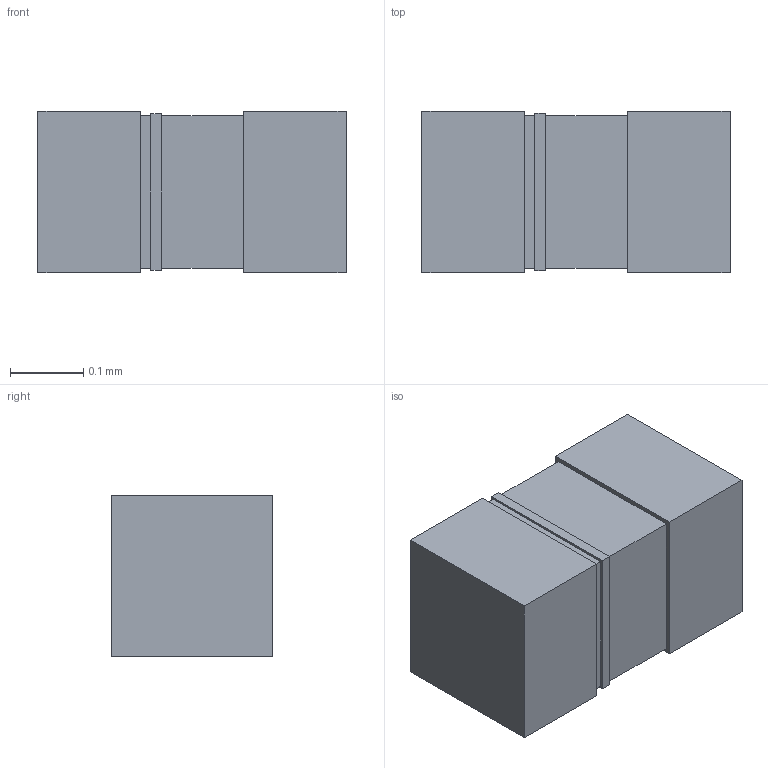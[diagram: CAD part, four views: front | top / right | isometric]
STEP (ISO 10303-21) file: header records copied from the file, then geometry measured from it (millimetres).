
FILE_DESCRIPTION(('STEP AP214'),'1');
FILE_NAME('CAP_01016D101KAT2A','2021-08-29T00:09:13',(''),(''),'','','');
FILE_SCHEMA(('AUTOMOTIVE_DESIGN'));
Length unit declared in the file: millimetre
Products named in the file (1): product
Bounding box: 0.42 x 0.22 x 0.22 mm (x, y, z)
Volume: 0 mm3; surface area: 0.7 mm2
Topology: 4 solids, 4 shells, 30 faces, 64 edges, 40 vertices
Faces by surface type: plane 30
Entity records: 799 total; most frequent: ORIENTED_EDGE 128, DIRECTION 126, CARTESIAN_POINT 71, EDGE_CURVE 64, LINE 64, VECTOR 64, VERTEX_POINT 40, AXIS2_PLACEMENT_3D 31
